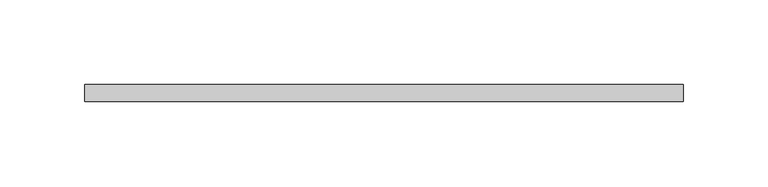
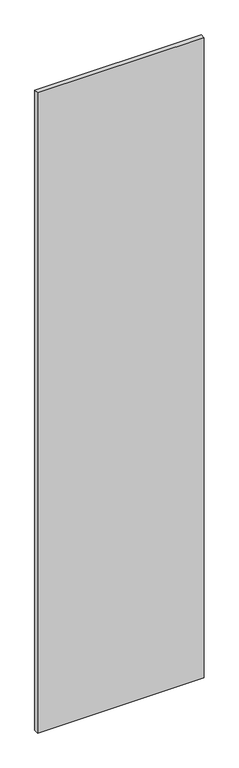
"""IFC4 building model written with IfcOpenShell, lengths in millimetres: plate geometry, システム パネル : 標準."""

from ifc_helpers import new_model, si_unit, origin, origin_with_axes, place, context, project, spatial, polyline, outline, extrude, source, transform, mapped, element, save


def plate_74590c32(model_context):
    return source(origin(), model_context, "Body", "SweptSolid", [
        extrude(outline(polyline([(176.0712115, -5.0), (-176.0712115, -5.0), (-176.0712115, 5.0), (176.0712115, 5.0), (176.0712115, -5.0)])), origin_with_axes(), (0.0, 0.0, 1.0), 1430.0),
    ])


if __name__ == "__main__":
    model = new_model("IFC4")
    model_context = context("Model", 3, world=origin())
    ifc_project = project(units=[si_unit("LENGTHUNIT", "METRE", prefix="MILLI")], contexts=[model_context])
    site = spatial("IfcSite", under=ifc_project)
    building = spatial("IfcBuilding", under=site)
    placement = place(None, origin())
    plate_shape = plate_74590c32(model_context)
    element("IfcPlate", 1, ObjectType="システム パネル : 標準", at=placement, inside=building, context=model_context, shape_type="MappedRepresentation", body=[
        mapped(plate_shape, transform((0.0, 0.0, 0.0), x_axis=(1.0, 0.0, 0.0), y_axis=(0.0, 1.0, 0.0), z_axis=(0.0, 0.0, 1.0))),
    ])
    save(model, "model.ifc")
